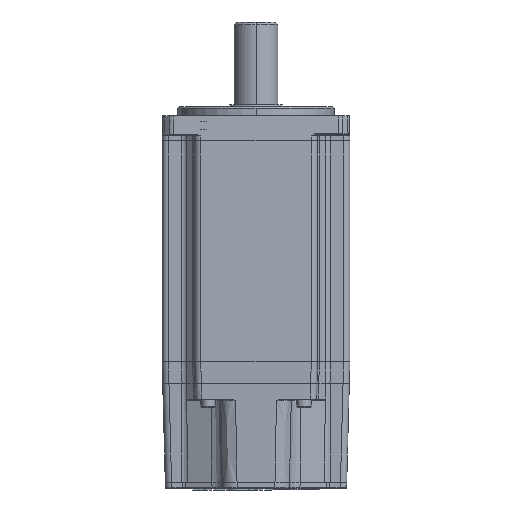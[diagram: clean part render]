
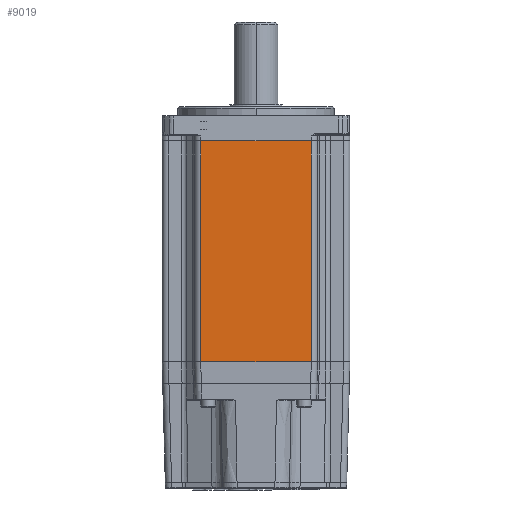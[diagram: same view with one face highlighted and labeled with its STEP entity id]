
A CAD part, front view. The second image highlights one B-rep face of the part: STEP entity #9019.
In plain terms, the highlighted planar face has unit normal (0, -1, 0).
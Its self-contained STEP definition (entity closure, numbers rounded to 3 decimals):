
#1827 = CARTESIAN_POINT ( 'NONE',  ( 0., -30., 34.347 ) ) ;
#2015 = PLANE ( 'NONE',  #44220 ) ;
#3462 = DIRECTION ( 'NONE',  ( 1., 0., 0. ) ) ;
#4812 = CARTESIAN_POINT ( 'NONE',  ( -17.65, -30., 34.347 ) ) ;
#6228 = FACE_OUTER_BOUND ( 'NONE', #42600, .T. ) ;
#7723 = ORIENTED_EDGE ( 'NONE', *, *, #43114, .T. ) ;
#8069 = LINE ( 'NONE', #34115, #38963 ) ;
#9019 = ADVANCED_FACE ( 'NONE', ( #6228 ), #2015, .F. ) ;
#9454 = CARTESIAN_POINT ( 'NONE',  ( -17.65, -30., -36.153 ) ) ;
#9465 = VERTEX_POINT ( 'NONE', #9454 ) ;
#9678 = VECTOR ( 'NONE', #47768, 1000. ) ;
#10357 = CARTESIAN_POINT ( 'NONE',  ( 17.65, -30., 34.347 ) ) ;
#11667 = CARTESIAN_POINT ( 'NONE',  ( -17.65, -30., 34.347 ) ) ;
#17902 = ORIENTED_EDGE ( 'NONE', *, *, #26778, .F. ) ;
#18998 = VECTOR ( 'NONE', #3462, 1000. ) ;
#21076 = LINE ( 'NONE', #4812, #9678 ) ;
#22708 = VERTEX_POINT ( 'NONE', #24735 ) ;
#22816 = VECTOR ( 'NONE', #38256, 1000. ) ;
#24735 = CARTESIAN_POINT ( 'NONE',  ( 17.65, -30., -36.153 ) ) ;
#24770 = CARTESIAN_POINT ( 'NONE',  ( 0., -30., 34.347 ) ) ;
#25987 = EDGE_CURVE ( 'NONE', #31552, #9465, #21076, .T. ) ;
#26778 = EDGE_CURVE ( 'NONE', #31552, #46264, #43155, .T. ) ;
#27772 = ORIENTED_EDGE ( 'NONE', *, *, #25987, .T. ) ;
#31552 = VERTEX_POINT ( 'NONE', #11667 ) ;
#31679 = ORIENTED_EDGE ( 'NONE', *, *, #49796, .T. ) ;
#34115 = CARTESIAN_POINT ( 'NONE',  ( 17.65, -30., 34.347 ) ) ;
#38256 = DIRECTION ( 'NONE',  ( 1., 0., 0. ) ) ;
#38963 = VECTOR ( 'NONE', #55494, 1000. ) ;
#39886 = DIRECTION ( 'NONE',  ( 0., 1., 0. ) ) ;
#42600 = EDGE_LOOP ( 'NONE', ( #31679, #7723, #17902, #27772 ) ) ;
#42721 = CARTESIAN_POINT ( 'NONE',  ( 0., -30., -36.153 ) ) ;
#43114 = EDGE_CURVE ( 'NONE', #22708, #46264, #8069, .T. ) ;
#43155 = LINE ( 'NONE', #24770, #18998 ) ;
#44220 = AXIS2_PLACEMENT_3D ( 'NONE', #1827, #39886, #49293 ) ;
#46264 = VERTEX_POINT ( 'NONE', #10357 ) ;
#47768 = DIRECTION ( 'NONE',  ( 0., 0., -1. ) ) ;
#49293 = DIRECTION ( 'NONE',  ( 0., 0., 1. ) ) ;
#49796 = EDGE_CURVE ( 'NONE', #9465, #22708, #55063, .T. ) ;
#55063 = LINE ( 'NONE', #42721, #22816 ) ;
#55494 = DIRECTION ( 'NONE',  ( 0., 0., 1. ) ) ;
